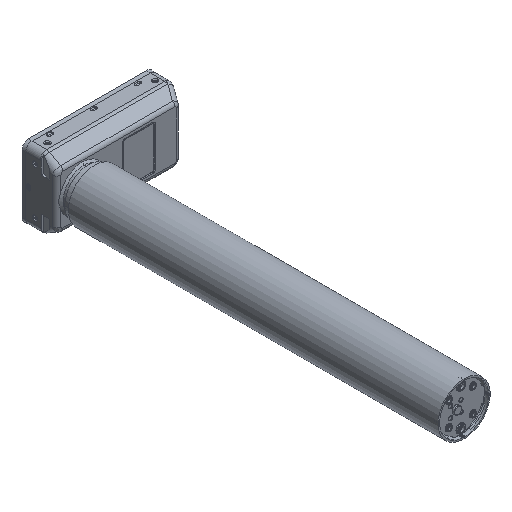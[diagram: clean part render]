
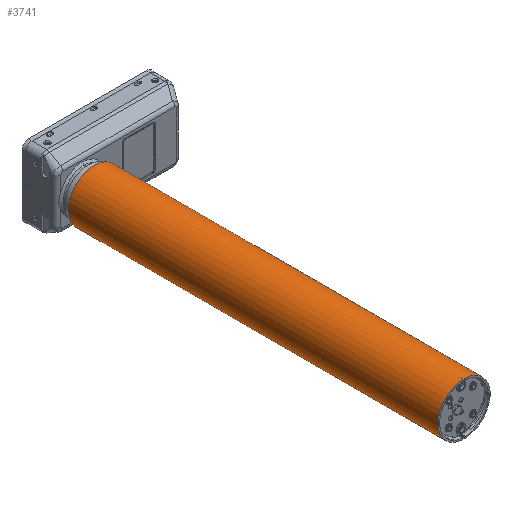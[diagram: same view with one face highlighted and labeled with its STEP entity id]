
A CAD part, isometric view. The second image highlights one B-rep face of the part: STEP entity #3741.
In plain terms, the highlighted cylindrical face has radius 35 mm (diameter 70 mm), a partial arc.
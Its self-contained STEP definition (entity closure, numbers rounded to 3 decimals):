
#76=CARTESIAN_POINT('',(0.,-479.,0.));
#77=DIRECTION('',(0.,1.,0.));
#78=DIRECTION('',(-0.707,0.,-0.707));
#79=AXIS2_PLACEMENT_3D('',#76,#77,#78);
#357=DIRECTION('',(0.,-1.,0.));
#358=VECTOR('',#357,498.);
#359=CARTESIAN_POINT('',(-24.749,19.,-24.749));
#360=LINE('',#359,#358);
#364=DIRECTION('',(0.,1.,0.));
#365=VECTOR('',#364,498.);
#366=CARTESIAN_POINT('',(24.749,-479.,24.749));
#367=LINE('',#366,#365);
#387=CARTESIAN_POINT('',(0.,19.,0.));
#388=DIRECTION('',(0.,1.,0.));
#389=DIRECTION('',(-0.707,0.,-0.707));
#390=AXIS2_PLACEMENT_3D('',#387,#388,#389);
#3135=CARTESIAN_POINT('',(-24.749,-479.,-24.749));
#3136=CARTESIAN_POINT('',(24.749,-479.,24.749));
#3137=VERTEX_POINT('',#3135);
#3138=VERTEX_POINT('',#3136);
#3224=CARTESIAN_POINT('',(-24.749,19.,-24.749));
#3225=CARTESIAN_POINT('',(24.749,19.,24.749));
#3226=VERTEX_POINT('',#3224);
#3227=VERTEX_POINT('',#3225);
#3727=CARTESIAN_POINT('',(0.,-10.,0.));
#3728=DIRECTION('',(0.,1.,0.));
#3729=DIRECTION('',(-1.,0.,0.));
#3730=AXIS2_PLACEMENT_3D('',#3727,#3728,#3729);
#3731=CYLINDRICAL_SURFACE('',#3730,35.);
#3733=ORIENTED_EDGE('',*,*,#3732,.F.);
#3734=ORIENTED_EDGE('',*,*,#3646,.F.);
#3736=ORIENTED_EDGE('',*,*,#3735,.F.);
#3738=ORIENTED_EDGE('',*,*,#3737,.T.);
#3739=EDGE_LOOP('',(#3733,#3734,#3736,#3738));
#3740=FACE_OUTER_BOUND('',#3739,.F.);
#80=CIRCLE('',#79,35.);
#391=CIRCLE('',#390,35.);
#3646=EDGE_CURVE('',#3137,#3138,#80,.T.);
#3732=EDGE_CURVE('',#3138,#3227,#367,.T.);
#3735=EDGE_CURVE('',#3226,#3137,#360,.T.);
#3737=EDGE_CURVE('',#3226,#3227,#391,.T.);
#3741=ADVANCED_FACE('',(#3740),#3731,.T.);
